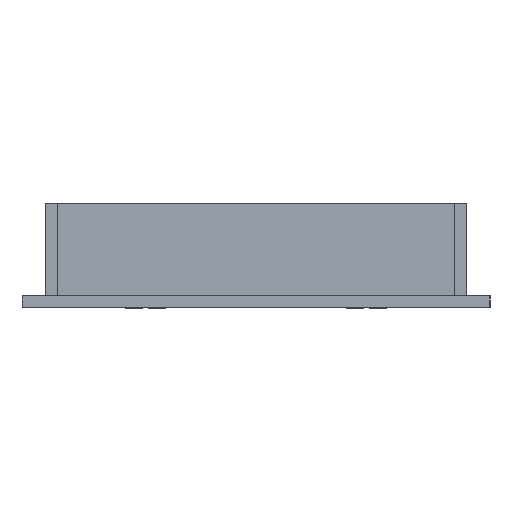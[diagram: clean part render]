
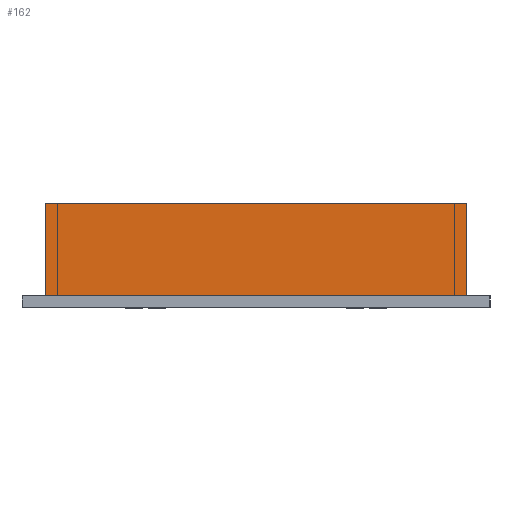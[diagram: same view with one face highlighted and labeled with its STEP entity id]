
A CAD part, left-side view. The second image highlights one B-rep face of the part: STEP entity #162.
In plain terms, the highlighted planar face has unit normal (-1, 0, 0).
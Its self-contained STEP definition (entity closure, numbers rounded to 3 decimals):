
#162=ADVANCED_FACE('',(#331),#2588,.T.);
#331=FACE_OUTER_BOUND('',#545,.T.);
#545=EDGE_LOOP('',(#948,#949,#950,#951));
#948=ORIENTED_EDGE('',*,*,#1627,.T.);
#949=ORIENTED_EDGE('',*,*,#1611,.T.);
#950=ORIENTED_EDGE('',*,*,#1612,.F.);
#951=ORIENTED_EDGE('',*,*,#1613,.F.);
#1611=EDGE_CURVE('',#2401,#2392,#1908,.T.);
#1612=EDGE_CURVE('',#2393,#2392,#1909,.T.);
#1613=EDGE_CURVE('',#2400,#2393,#1910,.T.);
#1627=EDGE_CURVE('',#2400,#2401,#1924,.T.);
#1908=B_SPLINE_CURVE_WITH_KNOTS('',1,(#5744,#5745),.UNSPECIFIED.,.F.,.F.,
(2,2),(0.,25.),.UNSPECIFIED.);
#1909=B_SPLINE_CURVE_WITH_KNOTS('',1,(#5746,#5747),.UNSPECIFIED.,.F.,.F.,
(2,2),(-3248.564,-3134.564),.UNSPECIFIED.);
#1910=B_SPLINE_CURVE_WITH_KNOTS('',1,(#5748,#5749),.UNSPECIFIED.,.F.,.F.,
(2,2),(0.,25.),.UNSPECIFIED.);
#1924=B_SPLINE_CURVE_WITH_KNOTS('',1,(#5776,#5777),.UNSPECIFIED.,.F.,.F.,
(2,2),(-3248.564,-3134.564),.UNSPECIFIED.);
#2392=VERTEX_POINT('',#5434);
#2393=VERTEX_POINT('',#5435);
#2400=VERTEX_POINT('',#5442);
#2401=VERTEX_POINT('',#5443);
#2588=PLANE('',#2882);
#2882=AXIS2_PLACEMENT_3D('',#5286,#3018,$);
#3018=DIRECTION('',(-1.,0.,0.));
#5286=CARTESIAN_POINT('',(6.5,-6.5,3.));
#5434=CARTESIAN_POINT('',(6.5,-120.5,28.));
#5435=CARTESIAN_POINT('',(6.5,-6.5,28.));
#5442=CARTESIAN_POINT('',(6.5,-6.5,3.));
#5443=CARTESIAN_POINT('',(6.5,-120.5,3.));
#5744=CARTESIAN_POINT('',(6.5,-120.5,3.));
#5745=CARTESIAN_POINT('',(6.5,-120.5,28.));
#5746=CARTESIAN_POINT('',(6.5,-6.5,28.));
#5747=CARTESIAN_POINT('',(6.5,-120.5,28.));
#5748=CARTESIAN_POINT('',(6.5,-6.5,3.));
#5749=CARTESIAN_POINT('',(6.5,-6.5,28.));
#5776=CARTESIAN_POINT('',(6.5,-6.5,3.));
#5777=CARTESIAN_POINT('',(6.5,-120.5,3.));
